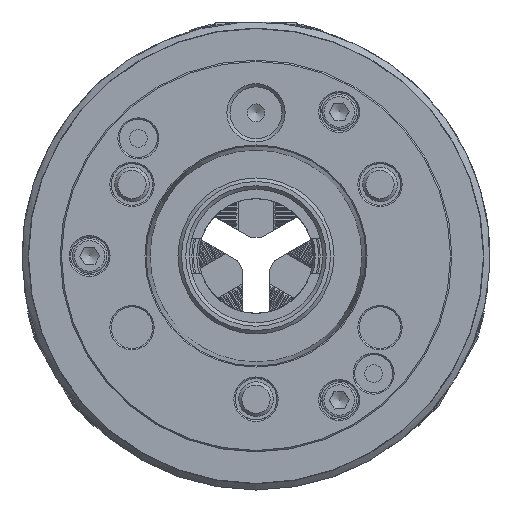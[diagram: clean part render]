
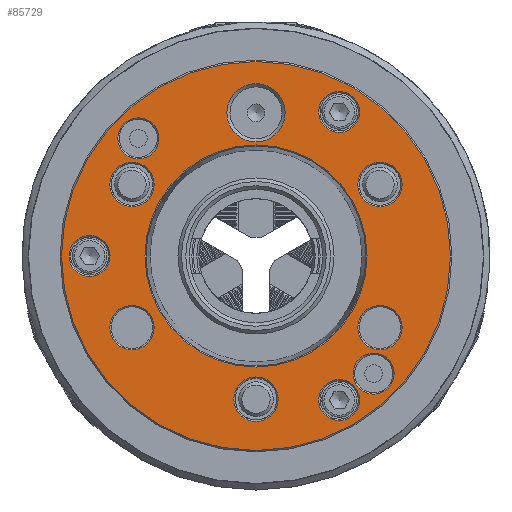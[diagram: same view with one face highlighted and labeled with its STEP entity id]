
A CAD part, front view. The second image highlights one B-rep face of the part: STEP entity #85729.
In plain terms, the highlighted planar face has unit normal (0, -1, 0).
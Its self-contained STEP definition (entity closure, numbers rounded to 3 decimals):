
#23182=FACE_BOUND('',#31999,.T.);
#23183=FACE_BOUND('',#32000,.T.);
#23184=FACE_BOUND('',#32001,.T.);
#23185=FACE_BOUND('',#32002,.T.);
#23186=FACE_BOUND('',#32003,.T.);
#23187=FACE_BOUND('',#32004,.T.);
#23188=FACE_BOUND('',#32005,.T.);
#23189=FACE_BOUND('',#32006,.T.);
#23190=FACE_BOUND('',#32007,.T.);
#23191=FACE_BOUND('',#32008,.T.);
#23192=FACE_BOUND('',#32009,.T.);
#23193=FACE_BOUND('',#32010,.T.);
#27379=FACE_OUTER_BOUND('',#31998,.T.);
#31998=EDGE_LOOP('',(#78740));
#31999=EDGE_LOOP('',(#78741));
#32000=EDGE_LOOP('',(#78742));
#32001=EDGE_LOOP('',(#78743));
#32002=EDGE_LOOP('',(#78744));
#32003=EDGE_LOOP('',(#78745));
#32004=EDGE_LOOP('',(#78746));
#32005=EDGE_LOOP('',(#78747));
#32006=EDGE_LOOP('',(#78748));
#32007=EDGE_LOOP('',(#78749));
#32008=EDGE_LOOP('',(#78750));
#32009=EDGE_LOOP('',(#78751));
#32010=EDGE_LOOP('',(#78752));
#32804=CIRCLE('',#91913,32.037);
#32806=CIRCLE('',#91916,56.1);
#32807=CIRCLE('',#91918,6.4);
#32808=CIRCLE('',#91920,6.4);
#32809=CIRCLE('',#91922,6.4);
#32810=CIRCLE('',#91924,6.4);
#32811=CIRCLE('',#91926,6.4);
#32812=CIRCLE('',#91928,5.9);
#32813=CIRCLE('',#91930,5.9);
#32814=CIRCLE('',#91932,5.9);
#32815=CIRCLE('',#91934,5.9);
#32816=CIRCLE('',#91936,5.9);
#32817=CIRCLE('',#91938,8.4);
#40996=VERTEX_POINT('',#144264);
#40998=VERTEX_POINT('',#144269);
#40999=VERTEX_POINT('',#144272);
#41000=VERTEX_POINT('',#144275);
#41001=VERTEX_POINT('',#144278);
#41002=VERTEX_POINT('',#144281);
#41003=VERTEX_POINT('',#144284);
#41004=VERTEX_POINT('',#144287);
#41005=VERTEX_POINT('',#144290);
#41006=VERTEX_POINT('',#144293);
#41007=VERTEX_POINT('',#144296);
#41008=VERTEX_POINT('',#144299);
#41009=VERTEX_POINT('',#144302);
#53589=EDGE_CURVE('',#40996,#40996,#32804,.T.);
#53591=EDGE_CURVE('',#40998,#40998,#32806,.T.);
#53592=EDGE_CURVE('',#40999,#40999,#32807,.T.);
#53593=EDGE_CURVE('',#41000,#41000,#32808,.T.);
#53594=EDGE_CURVE('',#41001,#41001,#32809,.T.);
#53595=EDGE_CURVE('',#41002,#41002,#32810,.T.);
#53596=EDGE_CURVE('',#41003,#41003,#32811,.T.);
#53597=EDGE_CURVE('',#41004,#41004,#32812,.T.);
#53598=EDGE_CURVE('',#41005,#41005,#32813,.T.);
#53599=EDGE_CURVE('',#41006,#41006,#32814,.T.);
#53600=EDGE_CURVE('',#41007,#41007,#32815,.T.);
#53601=EDGE_CURVE('',#41008,#41008,#32816,.T.);
#53602=EDGE_CURVE('',#41009,#41009,#32817,.T.);
#78740=ORIENTED_EDGE('',*,*,#53591,.T.);
#78741=ORIENTED_EDGE('',*,*,#53602,.T.);
#78742=ORIENTED_EDGE('',*,*,#53601,.T.);
#78743=ORIENTED_EDGE('',*,*,#53600,.T.);
#78744=ORIENTED_EDGE('',*,*,#53599,.T.);
#78745=ORIENTED_EDGE('',*,*,#53598,.T.);
#78746=ORIENTED_EDGE('',*,*,#53597,.T.);
#78747=ORIENTED_EDGE('',*,*,#53596,.T.);
#78748=ORIENTED_EDGE('',*,*,#53595,.T.);
#78749=ORIENTED_EDGE('',*,*,#53594,.T.);
#78750=ORIENTED_EDGE('',*,*,#53593,.T.);
#78751=ORIENTED_EDGE('',*,*,#53592,.T.);
#78752=ORIENTED_EDGE('',*,*,#53589,.T.);
#81536=PLANE('',#91942);
#85729=ADVANCED_FACE('',(#27379,#23182,#23183,#23184,#23185,#23186,#23187,
#23188,#23189,#23190,#23191,#23192,#23193),#81536,.T.);
#91913=AXIS2_PLACEMENT_3D('',#144265,#113567,#113568);
#91916=AXIS2_PLACEMENT_3D('',#144270,#113573,#113574);
#91918=AXIS2_PLACEMENT_3D('',#144273,#113577,#113578);
#91920=AXIS2_PLACEMENT_3D('',#144276,#113581,#113582);
#91922=AXIS2_PLACEMENT_3D('',#144279,#113585,#113586);
#91924=AXIS2_PLACEMENT_3D('',#144282,#113589,#113590);
#91926=AXIS2_PLACEMENT_3D('',#144285,#113593,#113594);
#91928=AXIS2_PLACEMENT_3D('',#144288,#113597,#113598);
#91930=AXIS2_PLACEMENT_3D('',#144291,#113601,#113602);
#91932=AXIS2_PLACEMENT_3D('',#144294,#113605,#113606);
#91934=AXIS2_PLACEMENT_3D('',#144297,#113609,#113610);
#91936=AXIS2_PLACEMENT_3D('',#144300,#113613,#113614);
#91938=AXIS2_PLACEMENT_3D('',#144303,#113617,#113618);
#91942=AXIS2_PLACEMENT_3D('',#144308,#113625,#113626);
#113567=DIRECTION('center_axis',(0.,1.,0.));
#113568=DIRECTION('ref_axis',(-0.5,0.,
0.866));
#113573=DIRECTION('center_axis',(0.,-1.,0.));
#113574=DIRECTION('ref_axis',(-0.5,0.,
0.866));
#113577=DIRECTION('center_axis',(0.,1.,0.));
#113578=DIRECTION('ref_axis',(-0.5,0.,
0.866));
#113581=DIRECTION('center_axis',(0.,1.,0.));
#113582=DIRECTION('ref_axis',(0.5,0.,0.866));
#113585=DIRECTION('center_axis',(0.,1.,0.));
#113586=DIRECTION('ref_axis',(1.,0.,0.));
#113589=DIRECTION('center_axis',(0.,1.,0.));
#113590=DIRECTION('ref_axis',(0.5,0.,-0.866));
#113593=DIRECTION('center_axis',(0.,1.,0.));
#113594=DIRECTION('ref_axis',(-0.5,0.,
-0.866));
#113597=DIRECTION('center_axis',(0.,1.,0.));
#113598=DIRECTION('ref_axis',(-0.5,0.,
0.866));
#113601=DIRECTION('center_axis',(0.,1.,0.));
#113602=DIRECTION('ref_axis',(0.5,0.,-0.866));
#113605=DIRECTION('center_axis',(0.,1.,0.));
#113606=DIRECTION('ref_axis',(-0.5,0.,
0.866));
#113609=DIRECTION('center_axis',(0.,1.,0.));
#113610=DIRECTION('ref_axis',(1.,0.,0.));
#113613=DIRECTION('center_axis',(0.,1.,0.));
#113614=DIRECTION('ref_axis',(-0.5,0.,
-0.866));
#113617=DIRECTION('center_axis',(0.,1.,0.));
#113618=DIRECTION('ref_axis',(-0.5,0.,
0.866));
#113625=DIRECTION('center_axis',(0.,-1.,0.));
#113626=DIRECTION('ref_axis',(-0.866,0.,
-0.5));
#144264=CARTESIAN_POINT('',(16.018,-16.,-27.745));
#144265=CARTESIAN_POINT('Origin',(0.,-16.,0.));
#144269=CARTESIAN_POINT('',(28.05,-16.,-48.584));
#144270=CARTESIAN_POINT('Origin',(0.,-16.,0.));
#144272=CARTESIAN_POINT('',(38.967,-16.,15.107));
#144273=CARTESIAN_POINT('Origin',(35.767,-16.,20.65));
#144275=CARTESIAN_POINT('',(32.567,-16.,-26.193));
#144276=CARTESIAN_POINT('Origin',(35.767,-16.,-20.65));
#144278=CARTESIAN_POINT('',(-6.4,-16.,-41.3));
#144279=CARTESIAN_POINT('Origin',(0.,-16.,-41.3));
#144281=CARTESIAN_POINT('',(-38.967,-16.,-15.107));
#144282=CARTESIAN_POINT('Origin',(-35.767,-16.,-20.65));
#144284=CARTESIAN_POINT('',(-32.567,-16.,26.193));
#144285=CARTESIAN_POINT('Origin',(-35.767,-16.,20.65));
#144287=CARTESIAN_POINT('',(36.891,-16.,-39.051));
#144288=CARTESIAN_POINT('Origin',(33.941,-16.,-33.941));
#144290=CARTESIAN_POINT('',(-36.891,-16.,39.051));
#144291=CARTESIAN_POINT('Origin',(-33.941,-16.,33.941));
#144293=CARTESIAN_POINT('',(26.95,-16.,-46.679));
#144294=CARTESIAN_POINT('Origin',(24.,-16.,-41.569));
#144296=CARTESIAN_POINT('',(-53.9,-16.,0.));
#144297=CARTESIAN_POINT('Origin',(-48.,-16.,0.));
#144299=CARTESIAN_POINT('',(26.95,-16.,46.679));
#144300=CARTESIAN_POINT('Origin',(24.,-16.,41.569));
#144302=CARTESIAN_POINT('',(4.2,-16.,34.025));
#144303=CARTESIAN_POINT('Origin',(0.,-16.,41.3));
#144308=CARTESIAN_POINT('Origin',(15.878,-16.,-27.502));
